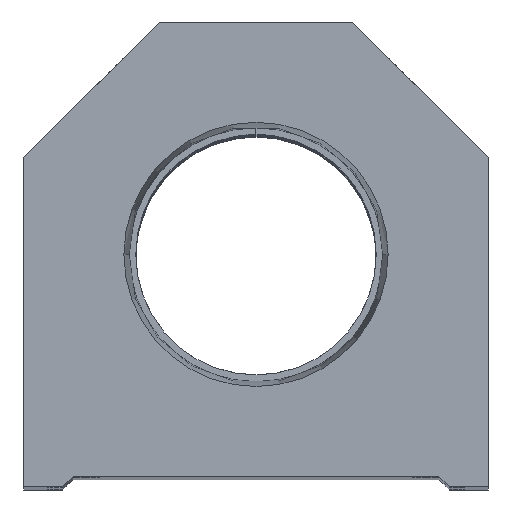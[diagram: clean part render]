
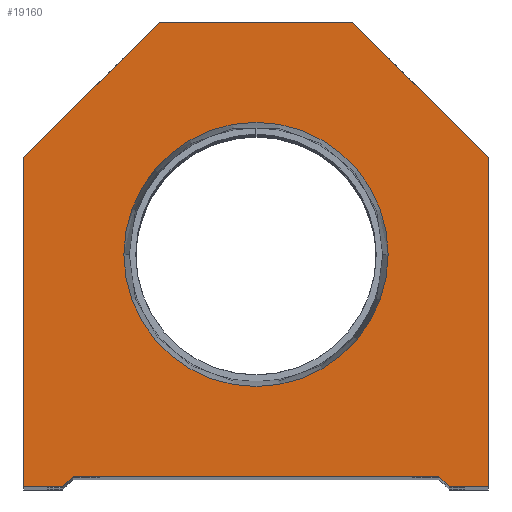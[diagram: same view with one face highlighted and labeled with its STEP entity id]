
A CAD part, top view. The second image highlights one B-rep face of the part: STEP entity #19160.
In plain terms, the highlighted planar face has unit normal (0, 0, 1).
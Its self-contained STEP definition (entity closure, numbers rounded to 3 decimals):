
#94 = VECTOR ( 'NONE', #10997, 1000. ) ;
#289 = VECTOR ( 'NONE', #5582, 1000. ) ;
#317 = LINE ( 'NONE', #5004, #5394 ) ;
#741 = LINE ( 'NONE', #5315, #13367 ) ;
#788 = DIRECTION ( 'NONE',  ( 1., 0., 0. ) ) ;
#1001 = AXIS2_PLACEMENT_3D ( 'NONE', #9145, #10554, #5516 ) ;
#1254 = ORIENTED_EDGE ( 'NONE', *, *, #15116, .T. ) ;
#1346 = EDGE_LOOP ( 'NONE', ( #8223, #19398, #1254, #11857, #18369, #16621, #16603, #13013, #16322, #12883 ) ) ;
#1380 = EDGE_CURVE ( 'NONE', #20069, #10591, #317, .T. ) ;
#1602 = VERTEX_POINT ( 'NONE', #9117 ) ;
#1763 = VECTOR ( 'NONE', #15789, 1000. ) ;
#2021 = EDGE_CURVE ( 'NONE', #3238, #20069, #13346, .T. ) ;
#2553 = AXIS2_PLACEMENT_3D ( 'NONE', #9551, #14226, #3452 ) ;
#2792 = VECTOR ( 'NONE', #20050, 1000. ) ;
#3010 = VERTEX_POINT ( 'NONE', #16776 ) ;
#3099 = CARTESIAN_POINT ( 'NONE',  ( -22.25, 0., 0. ) ) ;
#3121 = EDGE_CURVE ( 'NONE', #19071, #16839, #18748, .T. ) ;
#3238 = VERTEX_POINT ( 'NONE', #15126 ) ;
#3302 = DIRECTION ( 'NONE',  ( 0., -1., 0. ) ) ;
#3336 = CARTESIAN_POINT ( 'NONE',  ( -22.25, 31.5, 0. ) ) ;
#3452 = DIRECTION ( 'NONE',  ( 1., 0., 0. ) ) ;
#3610 = CARTESIAN_POINT ( 'NONE',  ( -9.25, 44.5, 0. ) ) ;
#3675 = CARTESIAN_POINT ( 'NONE',  ( -17.5, 1., 0. ) ) ;
#3942 = VERTEX_POINT ( 'NONE', #4047 ) ;
#4047 = CARTESIAN_POINT ( 'NONE',  ( -22.25, 0., 0. ) ) ;
#4151 = CARTESIAN_POINT ( 'NONE',  ( 22.25, 0., 0. ) ) ;
#4389 = CARTESIAN_POINT ( 'NONE',  ( -12.647, 22.25, 0. ) ) ;
#4895 = LINE ( 'NONE', #11095, #94 ) ;
#5004 = CARTESIAN_POINT ( 'NONE',  ( 9.25, 44.5, 0. ) ) ;
#5300 = CARTESIAN_POINT ( 'NONE',  ( -18.5, 0., 0. ) ) ;
#5315 = CARTESIAN_POINT ( 'NONE',  ( -22.25, 31.5, 0. ) ) ;
#5394 = VECTOR ( 'NONE', #11196, 1000. ) ;
#5516 = DIRECTION ( 'NONE',  ( 1., 0., 0. ) ) ;
#5543 = CARTESIAN_POINT ( 'NONE',  ( 17.5, 0., 0. ) ) ;
#5582 = DIRECTION ( 'NONE',  ( 0., 1., 0. ) ) ;
#5746 = LINE ( 'NONE', #5543, #14546 ) ;
#6053 = VERTEX_POINT ( 'NONE', #13325 ) ;
#6432 = EDGE_LOOP ( 'NONE', ( #20048, #18444 ) ) ;
#6912 = DIRECTION ( 'NONE',  ( -0.707, -0.707, 0. ) ) ;
#7045 = EDGE_CURVE ( 'NONE', #1602, #6053, #5746, .T. ) ;
#7269 = EDGE_CURVE ( 'NONE', #8665, #3010, #8360, .T. ) ;
#7706 = PLANE ( 'NONE',  #1001 ) ;
#8223 = ORIENTED_EDGE ( 'NONE', *, *, #10013, .T. ) ;
#8360 = LINE ( 'NONE', #14572, #20076 ) ;
#8665 = VERTEX_POINT ( 'NONE', #5300 ) ;
#8872 = VERTEX_POINT ( 'NONE', #18210 ) ;
#9011 = EDGE_CURVE ( 'NONE', #16839, #19071, #14876, .T. ) ;
#9064 = VECTOR ( 'NONE', #3302, 1000. ) ;
#9117 = CARTESIAN_POINT ( 'NONE',  ( 18.5, 0., 0. ) ) ;
#9145 = CARTESIAN_POINT ( 'NONE',  ( 0., 0., 0. ) ) ;
#9315 = AXIS2_PLACEMENT_3D ( 'NONE', #11348, #19202, #788 ) ;
#9551 = CARTESIAN_POINT ( 'NONE',  ( 0., 22.25, 0. ) ) ;
#10013 = EDGE_CURVE ( 'NONE', #3942, #8665, #13310, .T. ) ;
#10023 = EDGE_CURVE ( 'NONE', #6053, #3238, #19311, .T. ) ;
#10554 = DIRECTION ( 'NONE',  ( 0., 0., 1. ) ) ;
#10591 = VERTEX_POINT ( 'NONE', #3610 ) ;
#10655 = FACE_OUTER_BOUND ( 'NONE', #1346, .T. ) ;
#10997 = DIRECTION ( 'NONE',  ( 0.707, -0.707, 0. ) ) ;
#11087 = CARTESIAN_POINT ( 'NONE',  ( 9.25, 44.5, 0. ) ) ;
#11095 = CARTESIAN_POINT ( 'NONE',  ( 9.25, 9.25, 0. ) ) ;
#11196 = DIRECTION ( 'NONE',  ( -1., 0., 0. ) ) ;
#11299 = DIRECTION ( 'NONE',  ( 0.707, 0.707, 0. ) ) ;
#11348 = CARTESIAN_POINT ( 'NONE',  ( 0., 22.25, 0. ) ) ;
#11659 = CARTESIAN_POINT ( 'NONE',  ( -17.5, 0., 0. ) ) ;
#11857 = ORIENTED_EDGE ( 'NONE', *, *, #14237, .T. ) ;
#12883 = ORIENTED_EDGE ( 'NONE', *, *, #16552, .T. ) ;
#13013 = ORIENTED_EDGE ( 'NONE', *, *, #1380, .T. ) ;
#13310 = LINE ( 'NONE', #11659, #16213 ) ;
#13325 = CARTESIAN_POINT ( 'NONE',  ( 22.25, 0., 0. ) ) ;
#13346 = LINE ( 'NONE', #16501, #2792 ) ;
#13367 = VECTOR ( 'NONE', #6912, 1000. ) ;
#13739 = CARTESIAN_POINT ( 'NONE',  ( 12.647, 22.25, 0. ) ) ;
#14226 = DIRECTION ( 'NONE',  ( 0., 0., 1. ) ) ;
#14237 = EDGE_CURVE ( 'NONE', #8872, #1602, #4895, .T. ) ;
#14546 = VECTOR ( 'NONE', #16328, 1000. ) ;
#14572 = CARTESIAN_POINT ( 'NONE',  ( -9.25, 9.25, 0. ) ) ;
#14876 = CIRCLE ( 'NONE', #2553, 12.647 ) ;
#15116 = EDGE_CURVE ( 'NONE', #3010, #8872, #17313, .T. ) ;
#15126 = CARTESIAN_POINT ( 'NONE',  ( 22.25, 31.5, 0. ) ) ;
#15789 = DIRECTION ( 'NONE',  ( 1., 0., 0. ) ) ;
#16213 = VECTOR ( 'NONE', #17682, 1000. ) ;
#16322 = ORIENTED_EDGE ( 'NONE', *, *, #19925, .T. ) ;
#16328 = DIRECTION ( 'NONE',  ( 1., 0., 0. ) ) ;
#16501 = CARTESIAN_POINT ( 'NONE',  ( 22.25, 31.5, 0. ) ) ;
#16552 = EDGE_CURVE ( 'NONE', #18057, #3942, #18752, .T. ) ;
#16603 = ORIENTED_EDGE ( 'NONE', *, *, #2021, .T. ) ;
#16621 = ORIENTED_EDGE ( 'NONE', *, *, #10023, .T. ) ;
#16776 = CARTESIAN_POINT ( 'NONE',  ( -17.5, 1., 0. ) ) ;
#16839 = VERTEX_POINT ( 'NONE', #4389 ) ;
#17313 = LINE ( 'NONE', #3675, #1763 ) ;
#17682 = DIRECTION ( 'NONE',  ( 1., 0., 0. ) ) ;
#18057 = VERTEX_POINT ( 'NONE', #3336 ) ;
#18210 = CARTESIAN_POINT ( 'NONE',  ( 17.5, 1., 0. ) ) ;
#18369 = ORIENTED_EDGE ( 'NONE', *, *, #7045, .T. ) ;
#18444 = ORIENTED_EDGE ( 'NONE', *, *, #9011, .F. ) ;
#18748 = CIRCLE ( 'NONE', #9315, 12.647 ) ;
#18752 = LINE ( 'NONE', #3099, #9064 ) ;
#19071 = VERTEX_POINT ( 'NONE', #13739 ) ;
#19160 = ADVANCED_FACE ( 'NONE', ( #19442, #10655 ), #7706, .T. ) ;
#19202 = DIRECTION ( 'NONE',  ( 0., 0., 1. ) ) ;
#19311 = LINE ( 'NONE', #4151, #289 ) ;
#19398 = ORIENTED_EDGE ( 'NONE', *, *, #7269, .T. ) ;
#19442 = FACE_BOUND ( 'NONE', #6432, .T. ) ;
#19925 = EDGE_CURVE ( 'NONE', #10591, #18057, #741, .T. ) ;
#20048 = ORIENTED_EDGE ( 'NONE', *, *, #3121, .F. ) ;
#20050 = DIRECTION ( 'NONE',  ( -0.707, 0.707, 0. ) ) ;
#20069 = VERTEX_POINT ( 'NONE', #11087 ) ;
#20076 = VECTOR ( 'NONE', #11299, 1000. ) ;
